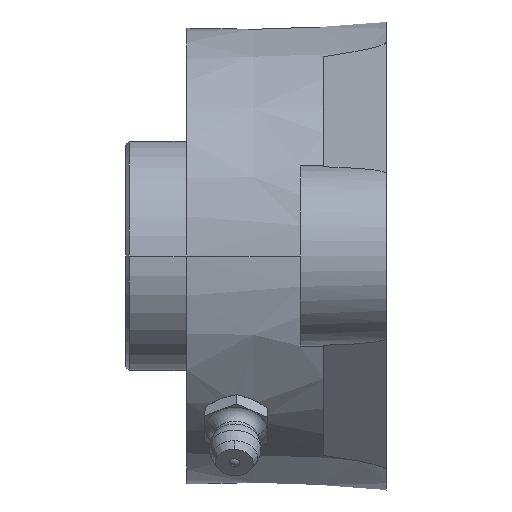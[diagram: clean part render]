
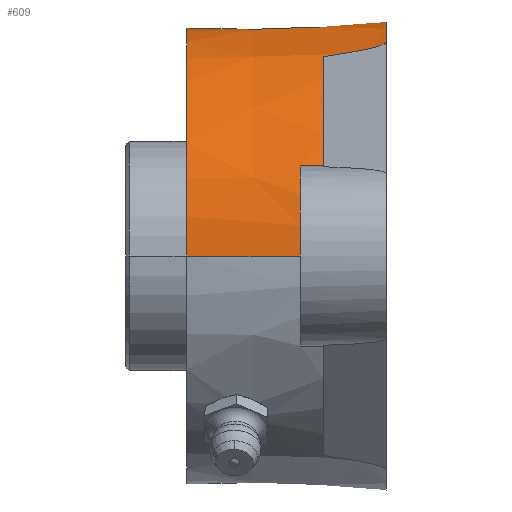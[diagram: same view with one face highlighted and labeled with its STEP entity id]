
A CAD part, left-side view. The second image highlights one B-rep face of the part: STEP entity #609.
In plain terms, the highlighted conical face has half-angle 2 degrees and reference radius 29.555 mm.
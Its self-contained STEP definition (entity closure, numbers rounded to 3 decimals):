
#16 = DIRECTION ( 'NONE',  ( 0., 1., 0. ) ) ;
#26 = CARTESIAN_POINT ( 'NONE',  ( 0., 12.75, 0. ) ) ;
#28 = CARTESIAN_POINT ( 'NONE',  ( 29.616, 11., 0. ) ) ;
#32 = CIRCLE ( 'NONE', #921, 29.721 ) ;
#48 = ORIENTED_EDGE ( 'NONE', *, *, #2022, .T. ) ;
#56 = AXIS2_PLACEMENT_3D ( 'NONE', #2150, #2921, #180 ) ;
#65 = CARTESIAN_POINT ( 'NONE',  ( -27.292, 11., 11.5 ) ) ;
#128 = CARTESIAN_POINT ( 'NONE',  ( 29.11, 25.5, 0. ) ) ;
#142 = ORIENTED_EDGE ( 'NONE', *, *, #1108, .F. ) ;
#143 = EDGE_CURVE ( 'NONE', #278, #1466, #909, .T. ) ;
#180 = DIRECTION ( 'NONE',  ( -1., 0., 0. ) ) ;
#232 = CARTESIAN_POINT ( 'NONE',  ( -12.333, 0., 27.348 ) ) ;
#233 = DIRECTION ( 'NONE',  ( 0., 1., 0. ) ) ;
#251 = LINE ( 'NONE', #785, #1732 ) ;
#272 = CARTESIAN_POINT ( 'NONE',  ( 27.406, 8., 11.5 ) ) ;
#278 = VERTEX_POINT ( 'NONE', #3241 ) ;
#295 = VERTEX_POINT ( 'NONE', #3185 ) ;
#308 = CARTESIAN_POINT ( 'NONE',  ( 14.407, 2.678, 26.234 ) ) ;
#320 = CARTESIAN_POINT ( 'NONE',  ( 27.292, 11., 11.5 ) ) ;
#330 = DIRECTION ( 'NONE',  ( -1., 0., 0. ) ) ;
#344 = EDGE_CURVE ( 'NONE', #1526, #3441, #792, .T. ) ;
#524 = CONICAL_SURFACE ( 'NONE', #1160, 29.555, 0.035 ) ;
#564 = EDGE_CURVE ( 'NONE', #3110, #1686, #1788, .T. ) ;
#571 = CARTESIAN_POINT ( 'NONE',  ( 29.555, 12.75, 0. ) ) ;
#574 = VERTEX_POINT ( 'NONE', #1872 ) ;
#609 = ADVANCED_FACE ( 'NONE', ( #1977 ), #524, .T. ) ;
#777 = ORIENTED_EDGE ( 'NONE', *, *, #143, .T. ) ;
#785 = CARTESIAN_POINT ( 'NONE',  ( -29.555, 12.75, 0. ) ) ;
#792 = CIRCLE ( 'NONE', #2449, 29.11 ) ;
#822 = CARTESIAN_POINT ( 'NONE',  ( -15.321, 8., 25.467 ) ) ;
#872 = CARTESIAN_POINT ( 'NONE',  ( 0., 11., 0. ) ) ;
#904 = VERTEX_POINT ( 'NONE', #1146 ) ;
#909 =( BOUNDED_CURVE ( )  B_SPLINE_CURVE ( 2, ( #272, #1383, #320 ),
 .UNSPECIFIED., .F., .F. ) 
 B_SPLINE_CURVE_WITH_KNOTS ( ( 3, 3 ),
 ( 7.989, 11.008 ),
 .UNSPECIFIED. ) 
 CURVE ( )  GEOMETRIC_REPRESENTATION_ITEM ( )  RATIONAL_B_SPLINE_CURVE ( ( 1., 1., 1. ) ) 
 REPRESENTATION_ITEM ( '' )  );
#921 = AXIS2_PLACEMENT_3D ( 'NONE', #2558, #3337, #330 ) ;
#963 = CARTESIAN_POINT ( 'NONE',  ( -15.321, 8., 25.467 ) ) ;
#976 = CARTESIAN_POINT ( 'NONE',  ( -29.616, 11., 0. ) ) ;
#1009 = ORIENTED_EDGE ( 'NONE', *, *, #2992, .T. ) ;
#1094 = CARTESIAN_POINT ( 'NONE',  ( -27.406, 8., 11.5 ) ) ;
#1101 = ORIENTED_EDGE ( 'NONE', *, *, #1631, .T. ) ;
#1108 = EDGE_CURVE ( 'NONE', #295, #3110, #2870, .T. ) ;
#1146 = CARTESIAN_POINT ( 'NONE',  ( 12.333, 0., 27.348 ) ) ;
#1160 = AXIS2_PLACEMENT_3D ( 'NONE', #26, #1457, #2476 ) ;
#1345 = CARTESIAN_POINT ( 'NONE',  ( -13.407, 0., 26.863 ) ) ;
#1347 = DIRECTION ( 'NONE',  ( -1., 0., 0. ) ) ;
#1383 = CARTESIAN_POINT ( 'NONE',  ( 27.349, 9.503, 11.5 ) ) ;
#1387 = CARTESIAN_POINT ( 'NONE',  ( 12.333, 0., 27.348 ) ) ;
#1457 = DIRECTION ( 'NONE',  ( 0., -1., 0. ) ) ;
#1466 = VERTEX_POINT ( 'NONE', #3415 ) ;
#1494 = VERTEX_POINT ( 'NONE', #976 ) ;
#1505 = ORIENTED_EDGE ( 'NONE', *, *, #564, .F. ) ;
#1511 = CARTESIAN_POINT ( 'NONE',  ( -29.11, 25.5, 0. ) ) ;
#1526 = VERTEX_POINT ( 'NONE', #1511 ) ;
#1623 = CARTESIAN_POINT ( 'NONE',  ( -14.407, 2.678, 26.234 ) ) ;
#1624 = DIRECTION ( 'NONE',  ( -1., 0., 0. ) ) ;
#1631 = EDGE_CURVE ( 'NONE', #295, #904, #1700, .T. ) ;
#1634 = ORIENTED_EDGE ( 'NONE', *, *, #344, .F. ) ;
#1673 =( BOUNDED_CURVE ( )  B_SPLINE_CURVE ( 3, ( #2172, #308, #2728, #1387 ),
 .UNSPECIFIED., .F., .T. ) 
 B_SPLINE_CURVE_WITH_KNOTS ( ( 4, 4 ),
 ( 6.057, 6.283 ),
 .UNSPECIFIED. ) 
 CURVE ( )  GEOMETRIC_REPRESENTATION_ITEM ( )  RATIONAL_B_SPLINE_CURVE ( ( 1., 0.996, 0.996, 1. ) ) 
 REPRESENTATION_ITEM ( '' )  );
#1677 = VECTOR ( 'NONE', #3280, 1000. ) ;
#1686 = VERTEX_POINT ( 'NONE', #1094 ) ;
#1700 = CIRCLE ( 'NONE', #2570, 30. ) ;
#1732 = VECTOR ( 'NONE', #2970, 1000. ) ;
#1786 = EDGE_CURVE ( 'NONE', #574, #904, #1673, .T. ) ;
#1787 = EDGE_CURVE ( 'NONE', #2896, #1686, #3352, .T. ) ;
#1788 = CIRCLE ( 'NONE', #2470, 29.721 ) ;
#1848 = DIRECTION ( 'NONE',  ( 1., 0., 0. ) ) ;
#1861 = AXIS2_PLACEMENT_3D ( 'NONE', #872, #16, #1347 ) ;
#1872 = CARTESIAN_POINT ( 'NONE',  ( 15.321, 8., 25.467 ) ) ;
#1904 = DIRECTION ( 'NONE',  ( 0., -1., 0. ) ) ;
#1977 = FACE_OUTER_BOUND ( 'NONE', #3304, .T. ) ;
#2022 = EDGE_CURVE ( 'NONE', #1466, #2495, #3173, .T. ) ;
#2063 = ORIENTED_EDGE ( 'NONE', *, *, #3407, .F. ) ;
#2083 = CIRCLE ( 'NONE', #1861, 29.616 ) ;
#2135 = DIRECTION ( 'NONE',  ( -1., 0., 0. ) ) ;
#2150 = CARTESIAN_POINT ( 'NONE',  ( 0., 11., 0. ) ) ;
#2170 = LINE ( 'NONE', #571, #1677 ) ;
#2172 = CARTESIAN_POINT ( 'NONE',  ( 15.321, 8., 25.467 ) ) ;
#2218 = CARTESIAN_POINT ( 'NONE',  ( 0., 25.5, 0. ) ) ;
#2264 = ORIENTED_EDGE ( 'NONE', *, *, #2732, .F. ) ;
#2398 = EDGE_CURVE ( 'NONE', #1526, #1494, #251, .T. ) ;
#2443 = CARTESIAN_POINT ( 'NONE',  ( 0., 8., 0. ) ) ;
#2449 = AXIS2_PLACEMENT_3D ( 'NONE', #2218, #233, #1624 ) ;
#2470 = AXIS2_PLACEMENT_3D ( 'NONE', #2443, #1904, #2135 ) ;
#2476 = DIRECTION ( 'NONE',  ( -1., 0., 0. ) ) ;
#2495 = VERTEX_POINT ( 'NONE', #28 ) ;
#2528 = ORIENTED_EDGE ( 'NONE', *, *, #1786, .F. ) ;
#2531 = ORIENTED_EDGE ( 'NONE', *, *, #1787, .T. ) ;
#2558 = CARTESIAN_POINT ( 'NONE',  ( 0., 8., 0. ) ) ;
#2570 = AXIS2_PLACEMENT_3D ( 'NONE', #3248, #2661, #1848 ) ;
#2661 = DIRECTION ( 'NONE',  ( 0., 1., 0. ) ) ;
#2728 = CARTESIAN_POINT ( 'NONE',  ( 13.407, 0., 26.863 ) ) ;
#2732 = EDGE_CURVE ( 'NONE', #3441, #2495, #2170, .T. ) ;
#2870 =( BOUNDED_CURVE ( )  B_SPLINE_CURVE ( 3, ( #232, #1345, #1623, #822 ),
 .UNSPECIFIED., .F., .F. ) 
 B_SPLINE_CURVE_WITH_KNOTS ( ( 4, 4 ),
 ( 3.142, 3.368 ),
 .UNSPECIFIED. ) 
 CURVE ( )  GEOMETRIC_REPRESENTATION_ITEM ( )  RATIONAL_B_SPLINE_CURVE ( ( 1., 0.996, 0.996, 1. ) ) 
 REPRESENTATION_ITEM ( '' )  );
#2896 = VERTEX_POINT ( 'NONE', #65 ) ;
#2921 = DIRECTION ( 'NONE',  ( 0., 1., 0. ) ) ;
#2970 = DIRECTION ( 'NONE',  ( -0.035, -0.999, 0. ) ) ;
#2992 = EDGE_CURVE ( 'NONE', #1494, #2896, #2083, .T. ) ;
#3056 = ORIENTED_EDGE ( 'NONE', *, *, #2398, .T. ) ;
#3073 = CARTESIAN_POINT ( 'NONE',  ( -27.349, 9.503, 11.5 ) ) ;
#3110 = VERTEX_POINT ( 'NONE', #963 ) ;
#3173 = CIRCLE ( 'NONE', #56, 29.616 ) ;
#3185 = CARTESIAN_POINT ( 'NONE',  ( -12.333, 0., 27.348 ) ) ;
#3241 = CARTESIAN_POINT ( 'NONE',  ( 27.406, 8., 11.5 ) ) ;
#3248 = CARTESIAN_POINT ( 'NONE',  ( 0., 0., 0. ) ) ;
#3264 = CARTESIAN_POINT ( 'NONE',  ( -27.406, 8., 11.5 ) ) ;
#3280 = DIRECTION ( 'NONE',  ( 0.035, -0.999, 0. ) ) ;
#3304 = EDGE_LOOP ( 'NONE', ( #2264, #1634, #3056, #1009, #2531, #1505, #142, #1101, #2528, #2063, #777, #48 ) ) ;
#3331 = CARTESIAN_POINT ( 'NONE',  ( -27.292, 11., 11.5 ) ) ;
#3337 = DIRECTION ( 'NONE',  ( 0., -1., 0. ) ) ;
#3352 =( BOUNDED_CURVE ( )  B_SPLINE_CURVE ( 2, ( #3331, #3073, #3264 ),
 .UNSPECIFIED., .F., .F. ) 
 B_SPLINE_CURVE_WITH_KNOTS ( ( 3, 3 ),
 ( 0., 3.019 ),
 .UNSPECIFIED. ) 
 CURVE ( )  GEOMETRIC_REPRESENTATION_ITEM ( )  RATIONAL_B_SPLINE_CURVE ( ( 1., 1., 1. ) ) 
 REPRESENTATION_ITEM ( '' )  );
#3407 = EDGE_CURVE ( 'NONE', #278, #574, #32, .T. ) ;
#3415 = CARTESIAN_POINT ( 'NONE',  ( 27.292, 11., 11.5 ) ) ;
#3441 = VERTEX_POINT ( 'NONE', #128 ) ;
